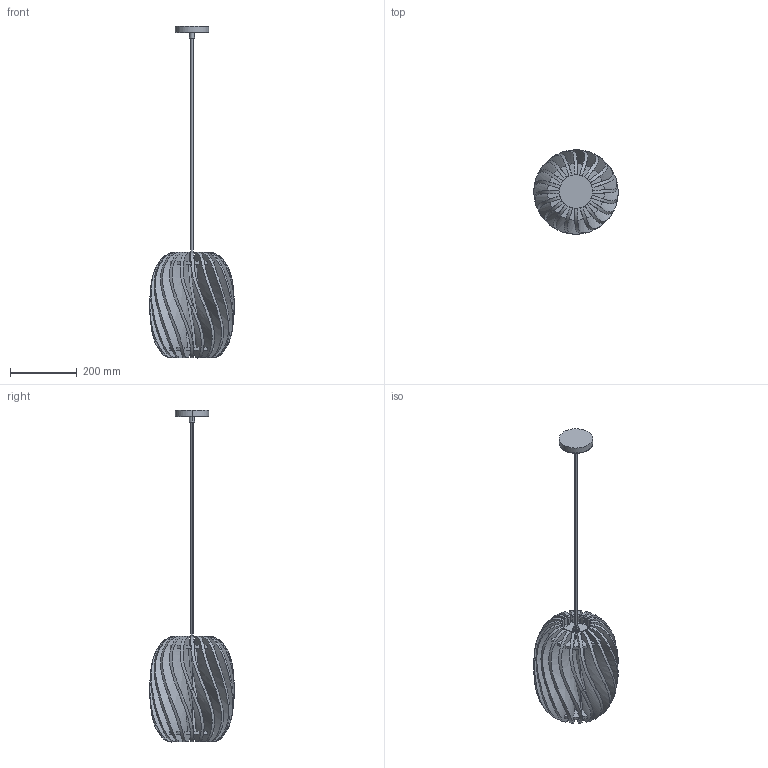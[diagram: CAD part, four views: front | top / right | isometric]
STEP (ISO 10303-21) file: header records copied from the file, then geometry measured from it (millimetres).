
FILE_DESCRIPTION(/* description */ (''),/* implementation_level */ '2;1');
FILE_NAME(/* name */ 'Twist mid STEP',/* time_stamp */ '2024-12-23T14:53:06+01:00',/* author */ (''),/* organization */ (''),/* preprocessor_version */ 'ST-DEVELOPER v16.5',/* originating_system */ 'Rhino 7.37',/* authorisation */ '');
FILE_SCHEMA (('CONFIG_CONTROL_DESIGN'));
Length unit declared in the file: millimetre
Products named in the file (1): Document
Bounding box: 252.89 x 252.89 x 992.65 mm (x, y, z)
Volume: 4518858.8 mm3; surface area: 1248582.9 mm2
Topology: 28 solids, 32 shells, 632 faces, 1689 edges, 1113 vertices
Faces by surface type: plane 330, bspline 237, cylinder 65
Entity records: 55609 total; most frequent: CARTESIAN_POINT 44778, ORIENTED_EDGE 3354, EDGE_CURVE 1682, B_SPLINE_CURVE_WITH_KNOTS 1315, VERTEX_POINT 1112, EDGE_LOOP 643, ADVANCED_FACE 632, FACE_OUTER_BOUND 632
